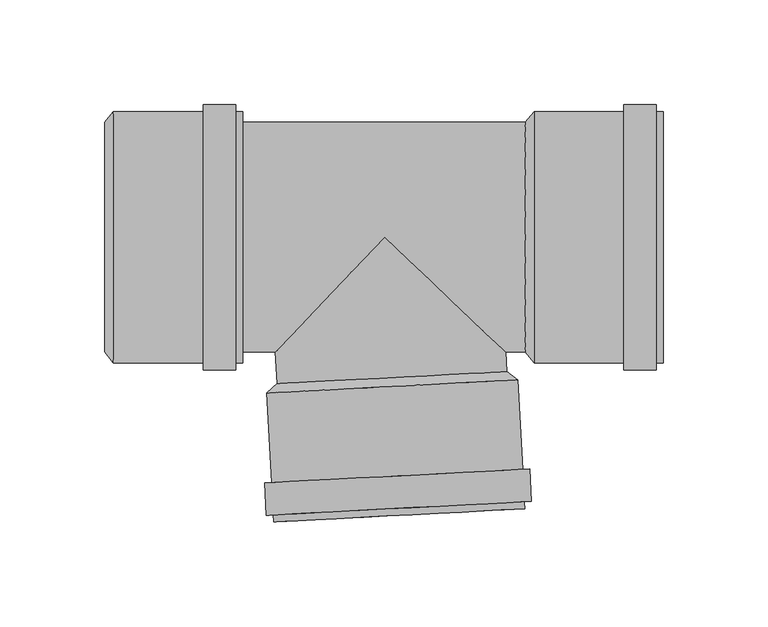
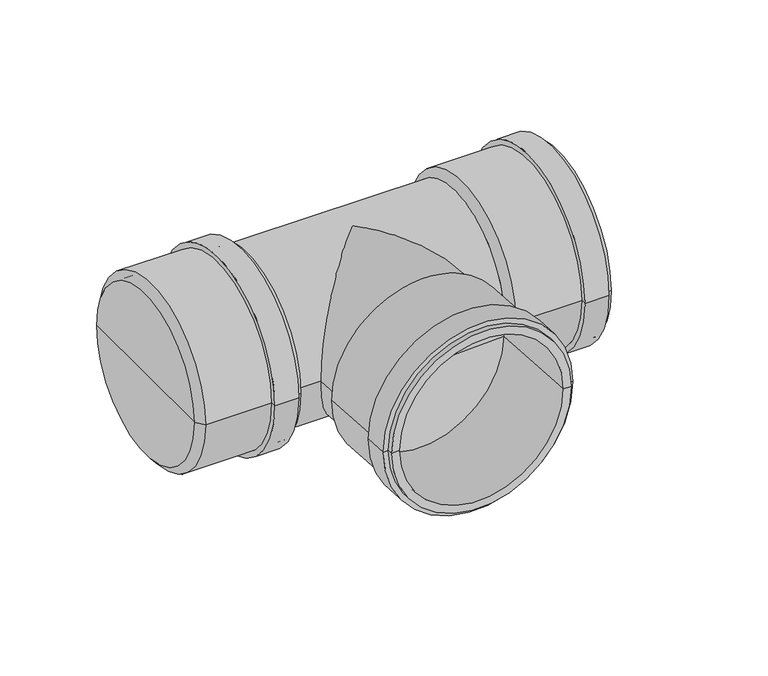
"""IFC4 building model written with IfcOpenShell, lengths in millimetres: pipe fitting geometry, pf_KGEA : pf_KGEA."""

from ifc_helpers import new_model, si_unit, frame, origin, place, context, project, spatial, polyline, circle_curve, ellipse_curve, source, transform, mapped, element, save
from ifc_brep_helpers import plane_surface, cylinder_surface, revolved_surface, advanced_brep


def pipe_fitting_48048346(model_context):
    return source(origin(), model_context, "Body", "AdvancedBrep", [
        advanced_brep(
        [(-51.4024146, -70.0862453, 0.0), (58.4468343, -64.3292901, 0.0), (63.7596559, -68.2566208, 0.0), (-56.2756142, -74.5474027, 0.0), (3.5222099, -67.2077677, 0.0), (-53.0412521, -136.262708, 0.0), (66.994018, -129.971926, 0.0), (61.9010074, -130.2388394, 0.0), (-47.9482414, -135.9957946, 0.0), (-53.2191943, -132.8673675, 0.0), (66.8160758, -126.5765856, 0.0), (-56.6145347, -133.0453098, 0.0), (70.2114162, -126.3986433, 0.0), (-57.4257421, -117.566552, 0.0), (69.4002089, -110.9198856, 0.0), (-54.0304016, -117.3886097, 0.0), (66.0048684, -111.0978278, 0.0), (-51.1826035, -74.2804893, 0.0), (58.6666453, -68.5235341, 0.0), (3.7420209, -71.4020117, 0.0)],
        [
            (0, 1, circle_curve(frame((3.5222099, -67.2077677, 0.0), z_axis=(0.05233595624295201, -0.9986295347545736, 0.0), x_axis=(0.9986295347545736, 0.05233595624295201, 0.0)), 55.0)),
            (1, 2),
            (2, 3, circle_curve(frame((3.7420209, -71.4020117, 0.0), z_axis=(-0.05233595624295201, 0.9986295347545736, 0.0), x_axis=(0.9986295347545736, 0.05233595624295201, 0.0)), 60.1)),
            (3, 0),
            (1, 0, circle_curve(frame((3.5222099, -67.2077677, 0.0), z_axis=(0.05233595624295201, -0.9986295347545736, 0.0), x_axis=(0.9986295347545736, 0.05233595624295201, 0.0)), 55.0)),
            (3, 2, circle_curve(frame((3.7420209, -71.4020117, 0.0), z_axis=(-0.05233595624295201, 0.9986295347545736, 0.0), x_axis=(0.9986295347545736, 0.05233595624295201, 0.0)), 60.1)),
            (4, 1),
            (0, 4),
            (5, 6, circle_curve(frame((6.976383, -133.117317, 0.0), z_axis=(0.05233595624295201, -0.9986295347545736, 0.0), x_axis=(0.9986295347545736, 0.05233595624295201, 0.0)), 60.1)),
            (6, 7),
            (7, 8, circle_curve(frame((6.976383, -133.117317, 0.0), z_axis=(-0.05233595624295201, 0.9986295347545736, 0.0), x_axis=(0.9986295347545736, 0.05233595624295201, 0.0)), 55.0)),
            (8, 5),
            (6, 5, circle_curve(frame((6.976383, -133.117317, 0.0), z_axis=(0.05233595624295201, -0.9986295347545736, 0.0), x_axis=(0.9986295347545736, 0.05233595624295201, 0.0)), 60.1)),
            (8, 7, circle_curve(frame((6.976383, -133.117317, 0.0), z_axis=(-0.05233595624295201, 0.9986295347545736, 0.0), x_axis=(0.9986295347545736, 0.05233595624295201, 0.0)), 55.0)),
            (9, 10, circle_curve(frame((6.7984407, -129.7219766, 0.0), z_axis=(0.05233595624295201, -0.9986295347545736, 0.0), x_axis=(0.9986295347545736, 0.05233595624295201, 0.0)), 60.1)),
            (10, 6),
            (5, 9),
            (10, 9, circle_curve(frame((6.7984407, -129.7219766, 0.0), z_axis=(0.05233595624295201, -0.9986295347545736, 0.0), x_axis=(0.9986295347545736, 0.05233595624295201, 0.0)), 60.1)),
            (11, 12, circle_curve(frame((6.7984407, -129.7219766, 0.0), z_axis=(0.05233595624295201, -0.9986295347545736, 0.0), x_axis=(0.9986295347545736, 0.05233595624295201, 0.0)), 63.5)),
            (12, 10),
            (9, 11),
            (12, 11, circle_curve(frame((6.7984407, -129.7219766, 0.0), z_axis=(0.05233595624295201, -0.9986295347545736, 0.0), x_axis=(0.9986295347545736, 0.05233595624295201, 0.0)), 63.5)),
            (13, 14, circle_curve(frame((5.9872334, -114.2432188, 0.0), z_axis=(0.05233595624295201, -0.9986295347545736, 0.0), x_axis=(0.9986295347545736, 0.05233595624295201, 0.0)), 63.5)),
            (14, 12),
            (11, 13),
            (14, 13, circle_curve(frame((5.9872334, -114.2432188, 0.0), z_axis=(0.05233595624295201, -0.9986295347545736, 0.0), x_axis=(0.9986295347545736, 0.05233595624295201, 0.0)), 63.5)),
            (15, 16, circle_curve(frame((5.9872334, -114.2432188, 0.0), z_axis=(0.05233595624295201, -0.9986295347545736, 0.0), x_axis=(0.9986295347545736, 0.05233595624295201, 0.0)), 60.1)),
            (16, 14),
            (13, 15),
            (16, 15, circle_curve(frame((5.9872334, -114.2432188, 0.0), z_axis=(0.05233595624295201, -0.9986295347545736, 0.0), x_axis=(0.9986295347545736, 0.05233595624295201, 0.0)), 60.1)),
            (2, 16),
            (15, 3),
            (17, 18, circle_curve(frame((3.7420209, -71.4020117, 0.0), z_axis=(0.05233595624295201, -0.9986295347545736, 0.0), x_axis=(0.9986295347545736, 0.05233595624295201, 0.0)), 55.0)),
            (18, 19),
            (19, 17),
            (18, 17, circle_curve(frame((3.7420209, -71.4020117, 0.0), z_axis=(0.05233595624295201, -0.9986295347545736, 0.0), x_axis=(0.9986295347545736, 0.05233595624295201, 0.0)), 55.0)),
            (7, 18),
            (17, 8),
        ],
        [
            revolved_surface(polyline([(63.7596559, -68.2566208, 0.0), (58.4468343, -64.3292901, 0.0)]), (3.5222099, -67.2077677, 0.0), (-0.05233595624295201, 0.9986295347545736, 0.0)),
            plane_surface(frame((3.5222099, -67.2077677, 0.0), z_axis=(-0.05233595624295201, 0.9986295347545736, 0.0), x_axis=(0.9986295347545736, 0.05233595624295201, 0.0))),
            plane_surface(frame((6.976383, -133.117317, 0.0), z_axis=(0.05233595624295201, -0.9986295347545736, 0.0), x_axis=(0.9986295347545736, 0.05233595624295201, 0.0))),
            cylinder_surface(frame((3.5222099, -67.2077677, 0.0), z_axis=(-0.05233595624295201, 0.9986295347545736, 0.0), x_axis=(0.9986295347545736, 0.05233595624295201, 0.0)), 60.1),
            plane_surface(frame((6.7984407, -129.7219766, 0.0), z_axis=(0.05233595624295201, -0.9986295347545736, 0.0), x_axis=(0.9986295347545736, 0.05233595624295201, 0.0))),
            cylinder_surface(frame((3.5222099, -67.2077677, 0.0), z_axis=(-0.05233595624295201, 0.9986295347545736, 0.0), x_axis=(0.9986295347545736, 0.05233595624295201, 0.0)), 63.5),
            plane_surface(frame((5.9872334, -114.2432188, 0.0), z_axis=(-0.05233595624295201, 0.9986295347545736, 0.0), x_axis=(0.9986295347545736, 0.05233595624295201, 0.0))),
            plane_surface(frame((3.7420209, -71.4020117, 0.0), z_axis=(0.05233595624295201, -0.9986295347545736, 0.0), x_axis=(0.9986295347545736, 0.05233595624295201, 0.0))),
            revolved_surface(polyline([(58.66664532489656, -68.52353409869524, 0.0), (61.90100742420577, -130.23883941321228, 0.0)]), (3.5222099, -67.2077677, 0.0), (-0.05233595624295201, 0.9986295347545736, 0.0)),
        ],
        [
            (0, [[1, 2, 3, 4]]),
            (0, [[5, -4, 6, -2]]),
            (1, [[7, -1, 8]]),
            (1, [[-8, -5, -7]]),
            (2, [[9, 10, 11, 12]]),
            (2, [[13, -12, 14, -10]]),
            (3, [[15, 16, -9, 17]]),
            (3, [[18, -17, -13, -16]]),
            (4, [[19, 20, -15, 21]]),
            (4, [[22, -21, -18, -20]]),
            (5, [[23, 24, -19, 25]]),
            (5, [[26, -25, -22, -24]]),
            (6, [[27, 28, -23, 29]]),
            (6, [[30, -29, -26, -28]]),
            (3, [[-3, 31, -27, 32]]),
            (3, [[-6, -32, -30, -31]]),
            (7, [[33, 34, 35]]),
            (7, [[36, -35, -34]]),
            (8, [[-11, 37, -33, 38]]),
            (8, [[-14, -38, -36, -37]]),
        ],
    ),
        advanced_brep(
        [(67.3, -55.0, 0.0), (67.3, 55.0, 0.0), (71.5, 60.1, 0.0), (71.5, -60.1, 0.0), (67.3, 0.0, 0.0), (133.3, -60.1, 0.0), (133.3, 60.1, 0.0), (133.3, 55.0, 0.0), (133.3, -55.0, 0.0), (129.9, -60.1, 0.0), (129.9, 60.1, 0.0), (129.9, -63.5, 0.0), (129.9, 63.5, 0.0), (114.4, -63.5, 0.0), (114.4, 63.5, 0.0), (114.4, -60.1, 0.0), (114.4, 60.1, 0.0), (71.5, -55.0, 0.0), (71.5, 55.0, 0.0), (71.5, 0.0, 0.0)],
        [
            (0, 1, circle_curve(frame((67.3, 0.0, 0.0), z_axis=(1.0, 0.0, 0.0), x_axis=(0.0, 1.0, 0.0)), 55.0)),
            (1, 2),
            (2, 3, circle_curve(frame((71.5, 0.0, 0.0), z_axis=(-1.0, 0.0, 0.0), x_axis=(0.0, 1.0, 0.0)), 60.1)),
            (3, 0),
            (1, 0, circle_curve(frame((67.3, 0.0, 0.0), z_axis=(1.0, 0.0, 0.0), x_axis=(0.0, 1.0, 0.0)), 55.0)),
            (3, 2, circle_curve(frame((71.5, 0.0, 0.0), z_axis=(-1.0, 0.0, 0.0), x_axis=(0.0, 1.0, 0.0)), 60.1)),
            (4, 1),
            (0, 4),
            (5, 6, circle_curve(frame((133.3, 0.0, 0.0), z_axis=(1.0, 0.0, 0.0), x_axis=(0.0, 1.0, 0.0)), 60.1)),
            (6, 7),
            (7, 8, circle_curve(frame((133.3, 0.0, 0.0), z_axis=(-1.0, 0.0, 0.0), x_axis=(0.0, 1.0, 0.0)), 55.0)),
            (8, 5),
            (6, 5, circle_curve(frame((133.3, 0.0, 0.0), z_axis=(1.0, 0.0, 0.0), x_axis=(0.0, 1.0, 0.0)), 60.1)),
            (8, 7, circle_curve(frame((133.3, 0.0, 0.0), z_axis=(-1.0, 0.0, 0.0), x_axis=(0.0, 1.0, 0.0)), 55.0)),
            (9, 10, circle_curve(frame((129.9, 0.0, 0.0), z_axis=(1.0, 0.0, 0.0), x_axis=(0.0, 1.0, 0.0)), 60.1)),
            (10, 6),
            (5, 9),
            (10, 9, circle_curve(frame((129.9, 0.0, 0.0), z_axis=(1.0, 0.0, 0.0), x_axis=(0.0, 1.0, 0.0)), 60.1)),
            (11, 12, circle_curve(frame((129.9, 0.0, 0.0), z_axis=(1.0, 0.0, 0.0), x_axis=(0.0, 1.0, 0.0)), 63.5)),
            (12, 10),
            (9, 11),
            (12, 11, circle_curve(frame((129.9, 0.0, 0.0), z_axis=(1.0, 0.0, 0.0), x_axis=(0.0, 1.0, 0.0)), 63.5)),
            (13, 14, circle_curve(frame((114.4, 0.0, 0.0), z_axis=(1.0, 0.0, 0.0), x_axis=(0.0, 1.0, 0.0)), 63.5)),
            (14, 12),
            (11, 13),
            (14, 13, circle_curve(frame((114.4, 0.0, 0.0), z_axis=(1.0, 0.0, 0.0), x_axis=(0.0, 1.0, 0.0)), 63.5)),
            (15, 16, circle_curve(frame((114.4, 0.0, 0.0), z_axis=(1.0, 0.0, 0.0), x_axis=(0.0, 1.0, 0.0)), 60.1)),
            (16, 14),
            (13, 15),
            (16, 15, circle_curve(frame((114.4, 0.0, 0.0), z_axis=(1.0, 0.0, 0.0), x_axis=(0.0, 1.0, 0.0)), 60.1)),
            (2, 16),
            (15, 3),
            (17, 18, circle_curve(frame((71.5, 0.0, 0.0), z_axis=(1.0, 0.0, 0.0), x_axis=(0.0, 1.0, 0.0)), 55.0)),
            (18, 19),
            (19, 17),
            (18, 17, circle_curve(frame((71.5, 0.0, 0.0), z_axis=(1.0, 0.0, 0.0), x_axis=(0.0, 1.0, 0.0)), 55.0)),
            (7, 18),
            (17, 8),
        ],
        [
            revolved_surface(polyline([(71.5, 60.1, 0.0), (67.3, 55.0, 0.0)]), (67.3, 0.0, 0.0), (-1.0, 0.0, 0.0)),
            plane_surface(frame((67.3, 0.0, 0.0), z_axis=(-1.0, 0.0, 0.0), x_axis=(0.0, 1.0, 0.0))),
            plane_surface(frame((133.3, 0.0, 0.0), z_axis=(1.0, 0.0, 0.0), x_axis=(0.0, 1.0, 0.0))),
            cylinder_surface(frame((67.3, 0.0, 0.0), z_axis=(-1.0, 0.0, 0.0), x_axis=(0.0, 1.0, 0.0)), 60.1),
            plane_surface(frame((129.9, 0.0, 0.0), z_axis=(1.0, 0.0, 0.0), x_axis=(0.0, 1.0, 0.0))),
            cylinder_surface(frame((67.3, 0.0, 0.0), z_axis=(-1.0, 0.0, 0.0), x_axis=(0.0, 1.0, 0.0)), 63.5),
            plane_surface(frame((114.4, 0.0, 0.0), z_axis=(-1.0, 0.0, 0.0), x_axis=(0.0, 1.0, 0.0))),
            plane_surface(frame((71.5, 0.0, 0.0), z_axis=(1.0, 0.0, 0.0), x_axis=(0.0, 1.0, 0.0))),
            revolved_surface(polyline([(71.5, 55.0, 0.0), (133.3, 55.0, 0.0)]), (67.3, 0.0, 0.0), (-1.0, 0.0, 0.0)),
        ],
        [
            (0, [[1, 2, 3, 4]]),
            (0, [[5, -4, 6, -2]]),
            (1, [[7, -1, 8]]),
            (1, [[-8, -5, -7]]),
            (2, [[9, 10, 11, 12]]),
            (2, [[13, -12, 14, -10]]),
            (3, [[15, 16, -9, 17]]),
            (3, [[18, -17, -13, -16]]),
            (4, [[19, 20, -15, 21]]),
            (4, [[22, -21, -18, -20]]),
            (5, [[23, 24, -19, 25]]),
            (5, [[26, -25, -22, -24]]),
            (6, [[27, 28, -23, 29]]),
            (6, [[30, -29, -26, -28]]),
            (3, [[-3, 31, -27, 32]]),
            (3, [[-6, -32, -30, -31]]),
            (7, [[33, 34, 35]]),
            (7, [[36, -35, -34]]),
            (8, [[-11, 37, -33, 38]]),
            (8, [[-14, -38, -36, -37]]),
        ],
    ),
        advanced_brep(
        [(-133.9, -55.0, 0.0), (-133.9, 55.0, 0.0), (-129.7, 60.1, 0.0), (-129.7, -60.1, 0.0), (-133.9, 0.0, 0.0), (-67.9, -60.1, 0.0), (-67.9, 60.1, 0.0), (-67.9, 55.0, 0.0), (-67.9, -55.0, 0.0), (-71.3, -60.1, 0.0), (-71.3, 60.1, 0.0), (-71.3, -63.5, 0.0), (-71.3, 63.5, 0.0), (-86.8, -63.5, 0.0), (-86.8, 63.5, 0.0), (-86.8, -60.1, 0.0), (-86.8, 60.1, 0.0), (-129.7, -55.0, 0.0), (-129.7, 55.0, 0.0), (-129.7, 0.0, 0.0)],
        [
            (0, 1, circle_curve(frame((-133.9, 0.0, 0.0), z_axis=(1.0, 0.0, 0.0), x_axis=(0.0, 1.0, 0.0)), 55.0)),
            (1, 2),
            (2, 3, circle_curve(frame((-129.7, 0.0, 0.0), z_axis=(-1.0, 0.0, 0.0), x_axis=(0.0, 1.0, 0.0)), 60.1)),
            (3, 0),
            (1, 0, circle_curve(frame((-133.9, 0.0, 0.0), z_axis=(1.0, 0.0, 0.0), x_axis=(0.0, 1.0, 0.0)), 55.0)),
            (3, 2, circle_curve(frame((-129.7, 0.0, 0.0), z_axis=(-1.0, 0.0, 0.0), x_axis=(0.0, 1.0, 0.0)), 60.1)),
            (4, 1),
            (0, 4),
            (5, 6, circle_curve(frame((-67.9, 0.0, 0.0), z_axis=(1.0, 0.0, 0.0), x_axis=(0.0, 1.0, 0.0)), 60.1)),
            (6, 7),
            (7, 8, circle_curve(frame((-67.9, 0.0, 0.0), z_axis=(-1.0, 0.0, 0.0), x_axis=(0.0, 1.0, 0.0)), 55.0)),
            (8, 5),
            (6, 5, circle_curve(frame((-67.9, 0.0, 0.0), z_axis=(1.0, 0.0, 0.0), x_axis=(0.0, 1.0, 0.0)), 60.1)),
            (8, 7, circle_curve(frame((-67.9, 0.0, 0.0), z_axis=(-1.0, 0.0, 0.0), x_axis=(0.0, 1.0, 0.0)), 55.0)),
            (9, 10, circle_curve(frame((-71.3, 0.0, 0.0), z_axis=(1.0, 0.0, 0.0), x_axis=(0.0, 1.0, 0.0)), 60.1)),
            (10, 6),
            (5, 9),
            (10, 9, circle_curve(frame((-71.3, 0.0, 0.0), z_axis=(1.0, 0.0, 0.0), x_axis=(0.0, 1.0, 0.0)), 60.1)),
            (11, 12, circle_curve(frame((-71.3, 0.0, 0.0), z_axis=(1.0, 0.0, 0.0), x_axis=(0.0, 1.0, 0.0)), 63.5)),
            (12, 10),
            (9, 11),
            (12, 11, circle_curve(frame((-71.3, 0.0, 0.0), z_axis=(1.0, 0.0, 0.0), x_axis=(0.0, 1.0, 0.0)), 63.5)),
            (13, 14, circle_curve(frame((-86.8, 0.0, 0.0), z_axis=(1.0, 0.0, 0.0), x_axis=(0.0, 1.0, 0.0)), 63.5)),
            (14, 12),
            (11, 13),
            (14, 13, circle_curve(frame((-86.8, 0.0, 0.0), z_axis=(1.0, 0.0, 0.0), x_axis=(0.0, 1.0, 0.0)), 63.5)),
            (15, 16, circle_curve(frame((-86.8, 0.0, 0.0), z_axis=(1.0, 0.0, 0.0), x_axis=(0.0, 1.0, 0.0)), 60.1)),
            (16, 14),
            (13, 15),
            (16, 15, circle_curve(frame((-86.8, 0.0, 0.0), z_axis=(1.0, 0.0, 0.0), x_axis=(0.0, 1.0, 0.0)), 60.1)),
            (2, 16),
            (15, 3),
            (17, 18, circle_curve(frame((-129.7, 0.0, 0.0), z_axis=(1.0, 0.0, 0.0), x_axis=(0.0, 1.0, 0.0)), 55.0)),
            (18, 19),
            (19, 17),
            (18, 17, circle_curve(frame((-129.7, 0.0, 0.0), z_axis=(1.0, 0.0, 0.0), x_axis=(0.0, 1.0, 0.0)), 55.0)),
            (7, 18),
            (17, 8),
        ],
        [
            revolved_surface(polyline([(-129.7, 60.1, 0.0), (-133.9, 55.0, 0.0)]), (-133.9, 0.0, 0.0), (-1.0, 0.0, 0.0)),
            plane_surface(frame((-133.9, 0.0, 0.0), z_axis=(-1.0, 0.0, 0.0), x_axis=(0.0, 1.0, 0.0))),
            plane_surface(frame((-67.9, 0.0, 0.0), z_axis=(1.0, 0.0, 0.0), x_axis=(0.0, 1.0, 0.0))),
            cylinder_surface(frame((-133.9, 0.0, 0.0), z_axis=(-1.0, 0.0, 0.0), x_axis=(0.0, 1.0, 0.0)), 60.1),
            plane_surface(frame((-71.3, 0.0, 0.0), z_axis=(1.0, 0.0, 0.0), x_axis=(0.0, 1.0, 0.0))),
            cylinder_surface(frame((-133.9, 0.0, 0.0), z_axis=(-1.0, 0.0, 0.0), x_axis=(0.0, 1.0, 0.0)), 63.5),
            plane_surface(frame((-86.8, 0.0, 0.0), z_axis=(-1.0, 0.0, 0.0), x_axis=(0.0, 1.0, 0.0))),
            plane_surface(frame((-129.7, 0.0, 0.0), z_axis=(1.0, 0.0, 0.0), x_axis=(0.0, 1.0, 0.0))),
            revolved_surface(polyline([(-129.7, 55.0, 0.0), (-67.9, 55.0, 0.0)]), (-133.9, 0.0, 0.0), (-1.0, 0.0, 0.0)),
        ],
        [
            (0, [[1, 2, 3, 4]]),
            (0, [[5, -4, 6, -2]]),
            (1, [[7, -1, 8]]),
            (1, [[-8, -5, -7]]),
            (2, [[9, 10, 11, 12]]),
            (2, [[13, -12, 14, -10]]),
            (3, [[15, 16, -9, 17]]),
            (3, [[18, -17, -13, -16]]),
            (4, [[19, 20, -15, 21]]),
            (4, [[22, -21, -18, -20]]),
            (5, [[23, 24, -19, 25]]),
            (5, [[26, -25, -22, -24]]),
            (6, [[27, 28, -23, 29]]),
            (6, [[30, -29, -26, -28]]),
            (3, [[-3, 31, -27, 32]]),
            (3, [[-6, -32, -30, -31]]),
            (7, [[33, 34, 35]]),
            (7, [[36, -35, -34]]),
            (8, [[-11, 37, -33, 38]]),
            (8, [[-14, -38, -36, -37]]),
        ],
    ),
        advanced_brep(
        [(-129.7, -55.0, 0.0), (-129.7, 55.0, 0.0), (67.3, -55.0, 0.0), (67.3, 55.0, 0.0), (-52.1930512, -55.0, 0.0), (0.0, 0.0, 55.0), (57.9579069, -55.0, 0.0), (0.0, 0.0, -55.0), (-51.4024146, -70.0862453, 0.0), (58.4468343, -64.3292901, 0.0)],
        [
            (0, 1, circle_curve(frame((-129.7, 0.0, 0.0), z_axis=(-1.0, 0.0, 0.0), x_axis=(0.0, 1.0, 0.0)), 55.0)),
            (1, 0, circle_curve(frame((-129.7, 0.0, 0.0), z_axis=(-1.0, 0.0, 0.0), x_axis=(0.0, 1.0, 0.0)), 55.0)),
            (2, 3, circle_curve(frame((67.3, 0.0, 0.0), z_axis=(1.0, 0.0, 0.0), x_axis=(0.0, 1.0, 0.0)), 55.0)),
            (3, 2, circle_curve(frame((67.3, 0.0, 0.0), z_axis=(1.0, 0.0, 0.0), x_axis=(0.0, 1.0, 0.0)), 55.0)),
            (0, 4),
            (4, 5, ellipse_curve(frame((0.0, 0.0, 0.0), z_axis=(-0.725374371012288, 0.6883545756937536, 0.0), x_axis=(-0.6883545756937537, -0.725374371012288, 0.0)), 75.822916, 55.0)),
            (5, 6, ellipse_curve(frame((0.0, 0.0, 0.0), z_axis=(0.6883545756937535, 0.7253743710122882, 0.0), x_axis=(-0.7253743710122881, 0.6883545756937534, 0.0)), 79.9006819, 55.0)),
            (6, 2),
            (3, 1),
            (6, 7, ellipse_curve(frame((0.0, 0.0, 0.0), z_axis=(0.6883545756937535, 0.7253743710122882, 0.0), x_axis=(-0.7253743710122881, 0.6883545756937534, 0.0)), 79.9006819, 55.0)),
            (7, 4, ellipse_curve(frame((0.0, 0.0, 0.0), z_axis=(-0.725374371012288, 0.6883545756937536, 0.0), x_axis=(-0.6883545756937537, -0.725374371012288, 0.0)), 75.822916, 55.0)),
            (8, 9, circle_curve(frame((3.5222099, -67.2077677, 0.0), z_axis=(0.052335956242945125, -0.9986295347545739, 0.0), x_axis=(0.9986295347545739, 0.052335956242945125, 0.0)), 55.0)),
            (9, 8, circle_curve(frame((3.5222099, -67.2077677, 0.0), z_axis=(0.052335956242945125, -0.9986295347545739, 0.0), x_axis=(0.9986295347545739, 0.052335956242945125, 0.0)), 55.0)),
            (9, 6),
            (4, 8),
        ],
        [
            plane_surface(frame((-129.7, 0.0, 0.0), z_axis=(-1.0, 0.0, 0.0), x_axis=(0.0, 0.0, 1.0))),
            plane_surface(frame((67.3, 0.0, 0.0), z_axis=(1.0, 0.0, 0.0), x_axis=(0.0, 0.0, 1.0))),
            cylinder_surface(frame((-129.7, 0.0, 0.0), z_axis=(-1.0, 0.0, 0.0), x_axis=(0.0, 1.0, 0.0)), 55.0),
            plane_surface(frame((3.5222099, -67.2077677, 0.0), z_axis=(0.05233595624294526, -0.9986295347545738, 0.0), x_axis=(0.0, 0.0, 1.0))),
            cylinder_surface(frame((0.0, 0.0, 0.0), z_axis=(-0.052335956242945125, 0.9986295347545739, 0.0), x_axis=(0.9986295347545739, 0.052335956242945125, 0.0)), 55.0),
        ],
        [
            (0, [[1, 2]]),
            (1, [[3, 4]]),
            (2, [[-1, 5, 6, 7, 8, -4, 9]]),
            (2, [[-2, -9, -3, -8, 10, 11, -5]]),
            (3, [[12, 13]]),
            (4, [[-13, 14, -7, -6, 15]]),
            (4, [[-12, -15, -11, -10, -14]]),
        ],
    ),
    ])


if __name__ == "__main__":
    model = new_model("IFC4")
    model_context = context("Model", 3, world=origin())
    ifc_project = project(units=[si_unit("LENGTHUNIT", "METRE", prefix="MILLI")], contexts=[model_context])
    site = spatial("IfcSite", under=ifc_project)
    building = spatial("IfcBuilding", under=site)
    placement = place(None, origin())
    pipe_fitting_shape = pipe_fitting_48048346(model_context)
    element("IfcPipeFitting", 1, ObjectType="pf_KGEA : pf_KGEA", at=placement, inside=building, context=model_context, shape_type="MappedRepresentation", body=[
        mapped(pipe_fitting_shape, transform((0.0, 0.0, 0.0), x_axis=(1.0, 0.0, 0.0), y_axis=(0.0, 1.0, 0.0), z_axis=(0.0, 0.0, 1.0))),
    ])
    save(model, "model.ifc")
